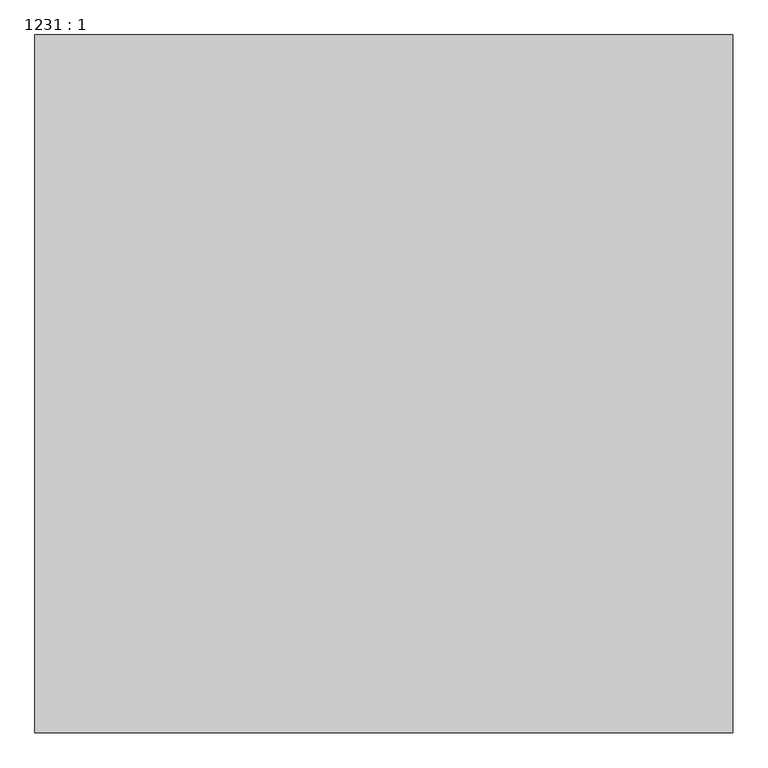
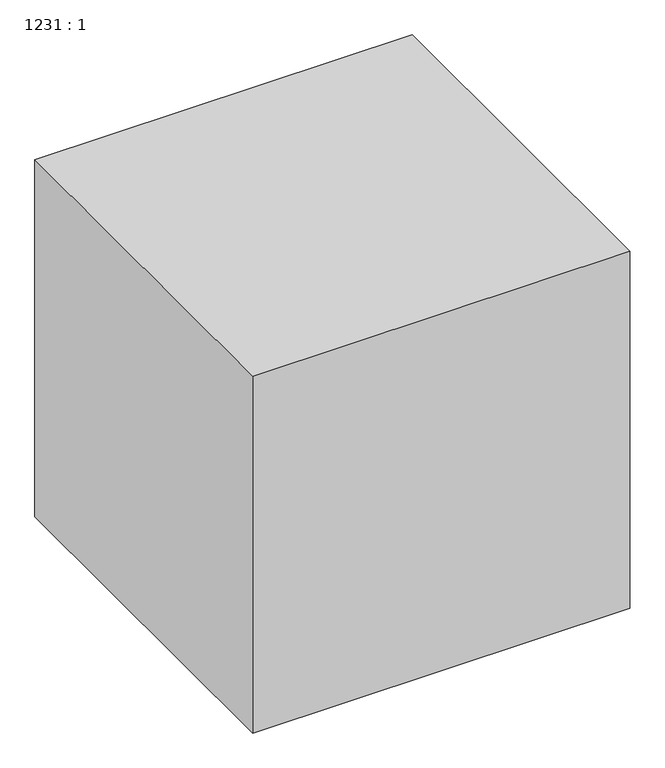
"""IFC4 building model written with IfcOpenShell, lengths in millimetres: proxy geometry, 1231 : 1."""

from ifc_helpers import new_model, si_unit, origin, origin_with_axes, place, context, project, spatial, polyline, outline, extrude, source, transform, mapped, element, save


def proxy_1231_1_4cfde164(model_context):
    return source(origin(), model_context, "Body", "SweptSolid", [
        extrude(outline(polyline([(-26307.9756708, 3335.2294472), (-26307.9756708, 2335.2294472), (-27307.9756708, 2335.2294472), (-27307.9756708, 3335.2294472), (-26307.9756708, 3335.2294472)])), origin_with_axes(), (0.0, 0.0, 1.0), 1000.0),
    ])


if __name__ == "__main__":
    model = new_model("IFC4")
    model_context = context("Model", 3, world=origin())
    ifc_project = project(units=[si_unit("LENGTHUNIT", "METRE", prefix="MILLI")], contexts=[model_context])
    site = spatial("IfcSite", under=ifc_project)
    building = spatial("IfcBuilding", under=site)
    placement = place(None, origin())
    proxy_1231_1_shape = proxy_1231_1_4cfde164(model_context)
    element("IfcBuildingElementProxy", 1, Name="1231 : 1", ObjectType="1231 : 1", at=placement, inside=building, context=model_context, shape_type="MappedRepresentation", body=[
        mapped(proxy_1231_1_shape, transform((0.0, 0.0, 0.0), x_axis=(1.0, 0.0, 0.0), y_axis=(0.0, 1.0, 0.0), z_axis=(0.0, 0.0, 1.0))),
    ])
    save(model, "model.ifc")
